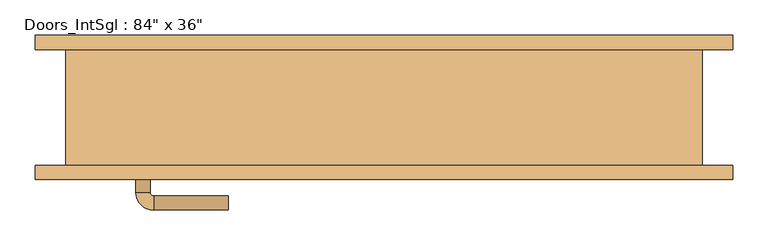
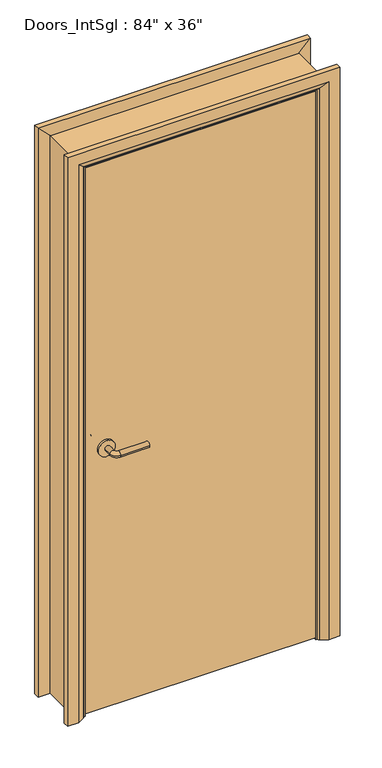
"""IFC4 building model written with IfcOpenShell, lengths in millimetres: door geometry."""

from ifc_helpers import new_model, si_unit, point, frame, frame_2d, origin, place, context, project, spatial, polyline, circle_curve, ellipse_curve, trimmed, segment, composite_curve, outline, extrude, faceted_brep, source, transform, mapped, element, save
from ifc_brep_helpers import plane_surface, cylinder_surface, revolved_surface, advanced_brep


def door_2f42d836(model_context):
    return source(origin(), model_context, "Body", "SolidModel", [
        advanced_brep(
        [(-350.2, -36.0, 1000.0), (-330.2, -36.0, 1000.0), (-350.2, -6.0, 1000.0), (-330.2, -6.0, 1000.0), (-325.2, -1.0, 1000.0), (-325.2, 19.0, 1000.0), (-220.2, 19.0, 1000.0), (-220.2, -1.0, 1000.0)],
        [
            (0, 1, circle_curve(frame((-340.2, -36.0, 1000.0), z_axis=(0.0, -1.0, 0.0), x_axis=(1.0, 0.0, 0.0)), 10.0)),
            (1, 0, circle_curve(frame((-340.2, -36.0, 1000.0), z_axis=(0.0, -1.0, 0.0), x_axis=(1.0, 0.0, 0.0)), 10.0)),
            (0, 2),
            (2, 3, circle_curve(frame((-340.2, -6.0, 1000.0), z_axis=(0.0, -1.0, 0.0), x_axis=(1.0, 0.0, 0.0)), 10.0)),
            (3, 1),
            (3, 2, circle_curve(frame((-340.2, -6.0, 1000.0), z_axis=(0.0, -1.0, 0.0), x_axis=(1.0, 0.0, 0.0)), 10.0)),
            (4, 3, circle_curve(frame((-325.2, -6.0, 1000.0), z_axis=(0.0, 0.0, 1.0), x_axis=(-1.0, 0.0, 0.0)), 5.0)),
            (2, 5, circle_curve(frame((-325.2, -6.0, 1000.0), z_axis=(0.0, 0.0, -1.0), x_axis=(-1.0, 0.0, 0.0)), 25.0)),
            (5, 4, circle_curve(frame((-325.2, 9.0, 1000.0), z_axis=(-1.0, 0.0, 0.0), x_axis=(0.0, -1.0, 0.0)), 10.0)),
            (4, 5, circle_curve(frame((-325.2, 9.0, 1000.0), z_axis=(-1.0, 0.0, 0.0), x_axis=(0.0, -1.0, 0.0)), 10.0)),
            (6, 7, circle_curve(frame((-220.2, 9.0, 1000.0), z_axis=(1.0, 0.0, 0.0), x_axis=(0.0, -1.0, 0.0)), 10.0)),
            (7, 6, circle_curve(frame((-220.2, 9.0, 1000.0), z_axis=(1.0, 0.0, 0.0), x_axis=(0.0, -1.0, 0.0)), 10.0)),
            (5, 6),
            (7, 4),
        ],
        [
            plane_surface(frame((-340.2, -36.0, 1000.0), z_axis=(0.0, -1.0, 0.0), x_axis=(0.0, 0.0, 1.0))),
            cylinder_surface(frame((-340.2, -36.0, 1000.0), z_axis=(0.0, -1.0, 0.0), x_axis=(1.0, 0.0, 0.0)), 10.0),
            revolved_surface(trimmed(ellipse_curve(frame((-340.2, -6.0, 1000.0), z_axis=(0.0, -1.0, 0.0), x_axis=(1.0, 0.0, 0.0)), 10.0, 10.0), [point((-350.2, -6.0, 1000.0))], [point((-330.2, -6.0, 1000.0))], True, "CARTESIAN"), (-325.2, -6.0, 1000.0), (0.0, 0.0, -1.0)),
            revolved_surface(trimmed(ellipse_curve(frame((-340.2, -6.0, 1000.0), z_axis=(0.0, -1.0, 0.0), x_axis=(1.0, 0.0, 0.0)), 10.0, 10.0), [point((-330.2, -6.0, 1000.0))], [point((-350.2, -6.0, 1000.0))], True, "CARTESIAN"), (-325.2, -6.0, 1000.0), (0.0, 0.0, -1.0)),
            plane_surface(frame((-220.2, 9.0, 1000.0), z_axis=(1.0, 0.0, 0.0), x_axis=(0.0, 0.0, 1.0))),
            cylinder_surface(frame((-325.2, 9.0, 1000.0), z_axis=(-1.0, 0.0, 0.0), x_axis=(0.0, -1.0, 0.0)), 10.0),
        ],
        [
            (0, [[1, 2]]),
            (1, [[-1, 3, 4, 5]]),
            (1, [[-2, -5, 6, -3]]),
            (2, [[7, -4, 8, 9]]),
            (3, [[-8, -6, -7, 10]]),
            (4, [[11, 12]]),
            (5, [[-9, 13, -12, 14]]),
            (5, [[-10, -14, -11, -13]]),
        ],
    ),
        extrude(outline(composite_curve([segment(trimmed(circle_curve(frame_2d((1000.0, -342.7)), 30.0), [point((1000.0, -372.7))], [point((1000.0, -312.7))], False, "CARTESIAN"), True, "CONTINUOUS"), segment(trimmed(circle_curve(frame_2d((1000.0, -342.7)), 30.0), [point((1000.0, -312.7))], [point((1000.0, -372.7))], False, "CARTESIAN"), True, "CONTINUOUS")], self_intersect=False)), frame((0.0, -44.0, 0.0), z_axis=(0.0, 1.0, 0.0), x_axis=(0.0, 0.0, 1.0)), (0.0, 0.0, 1.0), 8.0),
        advanced_brep(
        [(-350.2, -90.0, 1000.0), (-330.2, -90.0, 1000.0), (-330.2, -120.0, 1000.0), (-350.2, -120.0, 1000.0), (-325.2, -125.0, 1000.0), (-325.2, -145.0, 1000.0), (-220.2, -145.0, 1000.0), (-220.2, -125.0, 1000.0)],
        [
            (0, 1, circle_curve(frame((-340.2, -90.0, 1000.0), z_axis=(0.0, 1.0, 0.0), x_axis=(1.0, 0.0, 0.0)), 10.0)),
            (1, 0, circle_curve(frame((-340.2, -90.0, 1000.0), z_axis=(0.0, 1.0, 0.0), x_axis=(1.0, 0.0, 0.0)), 10.0)),
            (1, 2),
            (2, 3, circle_curve(frame((-340.2, -120.0, 1000.0), z_axis=(0.0, 1.0, 0.0), x_axis=(1.0, 0.0, 0.0)), 10.0)),
            (3, 0),
            (3, 2, circle_curve(frame((-340.2, -120.0, 1000.0), z_axis=(0.0, 1.0, 0.0), x_axis=(1.0, 0.0, 0.0)), 10.0)),
            (4, 5, circle_curve(frame((-325.2, -135.0, 1000.0), z_axis=(-1.0, 0.0, 0.0), x_axis=(0.0, 1.0, 0.0)), 10.0)),
            (5, 3, circle_curve(frame((-325.2, -120.0, 1000.0), z_axis=(0.0, 0.0, -1.0), x_axis=(-1.0, 0.0, 0.0)), 25.0)),
            (2, 4, circle_curve(frame((-325.2, -120.0, 1000.0), z_axis=(0.0, 0.0, 1.0), x_axis=(-1.0, 0.0, 0.0)), 5.0)),
            (5, 4, circle_curve(frame((-325.2, -135.0, 1000.0), z_axis=(-1.0, 0.0, 0.0), x_axis=(0.0, 1.0, 0.0)), 10.0)),
            (6, 7, circle_curve(frame((-220.2, -135.0, 1000.0), z_axis=(1.0, 0.0, 0.0), x_axis=(0.0, 1.0, 0.0)), 10.0)),
            (7, 6, circle_curve(frame((-220.2, -135.0, 1000.0), z_axis=(1.0, 0.0, 0.0), x_axis=(0.0, 1.0, 0.0)), 10.0)),
            (4, 7),
            (6, 5),
        ],
        [
            plane_surface(frame((-340.2, -90.0, 1000.0), z_axis=(0.0, 1.0, 0.0), x_axis=(0.0, 0.0, 1.0))),
            cylinder_surface(frame((-340.2, -90.0, 1000.0), z_axis=(0.0, 1.0, 0.0), x_axis=(1.0, 0.0, 0.0)), 10.0),
            revolved_surface(trimmed(ellipse_curve(frame((-340.2, -120.0, 1000.0), z_axis=(0.0, -1.0, 0.0), x_axis=(1.0, 0.0, 0.0)), 10.0, 10.0), [point((-350.2, -120.0, 1000.0))], [point((-330.2, -120.0, 1000.0))], True, "CARTESIAN"), (-325.2, -120.0, 1000.0), (0.0, 0.0, -1.0)),
            revolved_surface(trimmed(ellipse_curve(frame((-340.2, -120.0, 1000.0), z_axis=(0.0, -1.0, 0.0), x_axis=(1.0, 0.0, 0.0)), 10.0, 10.0), [point((-330.2, -120.0, 1000.0))], [point((-350.2, -120.0, 1000.0))], True, "CARTESIAN"), (-325.2, -120.0, 1000.0), (0.0, 0.0, -1.0)),
            plane_surface(frame((-220.2, -135.0, 1000.0), z_axis=(1.0, 0.0, 0.0), x_axis=(0.0, 0.0, 1.0))),
            cylinder_surface(frame((-325.2, -135.0, 1000.0), z_axis=(-1.0, 0.0, 0.0), x_axis=(0.0, 1.0, 0.0)), 10.0),
        ],
        [
            (0, [[1, 2]]),
            (1, [[3, 4, 5, -2]]),
            (1, [[-5, 6, -3, -1]]),
            (2, [[7, 8, -4, 9]]),
            (3, [[10, -9, -6, -8]]),
            (4, [[11, 12]]),
            (5, [[13, -11, 14, -7]]),
            (5, [[-14, -12, -13, -10]]),
        ],
    ),
        extrude(outline(composite_curve([segment(trimmed(circle_curve(frame_2d((1000.0, -342.7)), 30.0), [point((1000.0, -372.7))], [point((1000.0, -312.7))], False, "CARTESIAN"), True, "CONTINUOUS"), segment(trimmed(circle_curve(frame_2d((1000.0, -342.7)), 30.0), [point((1000.0, -312.7))], [point((1000.0, -372.7))], False, "CARTESIAN"), True, "CONTINUOUS")], self_intersect=False)), frame((0.0, -90.0, 0.0), z_axis=(0.0, 1.0, 0.0), x_axis=(0.0, 0.0, 1.0)), (0.0, 0.0, 1.0), 8.0),
        extrude(outline(polyline([(415.2, -44.0), (415.2, -82.0), (-415.2, -82.0), (-415.2, -44.0), (415.2, -44.0)])), frame((0.0, 0.0, 8.0), z_axis=(0.0, 0.0, 1.0), x_axis=(1.0, 0.0, 0.0)), (0.0, 0.0, 1.0), 2083.6),
        advanced_brep(
        [(492.2, -102.0, 0.0), (452.2, -102.0, 0.0), (426.2, -88.0, 0.0), (422.2, -82.0, 0.0), (492.2, -82.0, 0.0), (492.2, -82.0, 2168.6), (492.2, -102.0, 2168.6), (422.2, -82.0, 2098.6), (-422.2, -82.0, 2098.6), (-422.2, -82.0, 0.0), (-492.2, -82.0, 0.0), (-492.2, -82.0, 2168.6), (426.2, -88.0, 2102.6), (452.2, -102.0, 2128.6), (-492.2, -102.0, 2168.6), (-492.2, -102.0, 0.0), (-452.2, -102.0, 0.0), (-452.2, -102.0, 2128.6), (-426.2, -88.0, 0.0), (-426.2, -88.0, 2102.6)],
        [
            (0, 1),
            (1, 2),
            (2, 3, circle_curve(frame((430.2, -81.0, 0.0), z_axis=(0.0, 0.0, -1.0), x_axis=(1.0, 0.0, 0.0)), 8.0622577)),
            (3, 4),
            (4, 0),
            (4, 5),
            (5, 6),
            (6, 0),
            (3, 7),
            (7, 8),
            (8, 9),
            (9, 10),
            (10, 11),
            (11, 5),
            (2, 12),
            (12, 7, ellipse_curve(frame((430.2, -81.0, 2106.6), z_axis=(0.7071067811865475, 0.0, -0.7071067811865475), x_axis=(-0.7071067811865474, 0.0, -0.7071067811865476)), 11.4017543, 8.0622577)),
            (1, 13),
            (13, 12),
            (6, 14),
            (14, 15),
            (15, 16),
            (16, 17),
            (17, 13),
            (10, 15),
            (14, 11),
            (9, 18, circle_curve(frame((-430.2, -81.0, 0.0), z_axis=(0.0, 0.0, -1.0), x_axis=(-1.0, 0.0, 0.0)), 8.0622577)),
            (18, 16),
            (19, 18),
            (8, 19, ellipse_curve(frame((-430.2, -81.0, 2106.6), z_axis=(-0.7071067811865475, 0.0, -0.7071067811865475), x_axis=(-0.7071067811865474, 0.0, 0.7071067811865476)), 11.4017543, 8.0622577)),
            (19, 17),
            (12, 19),
        ],
        [
            plane_surface(frame((422.2, -82.0, 0.0), z_axis=(0.0, 0.0, -1.0), x_axis=(0.0, 1.0, 0.0))),
            plane_surface(frame((492.2, -102.0, 0.0), z_axis=(1.0, 0.0, 0.0), x_axis=(0.0, 0.0, 1.0))),
            plane_surface(frame((492.2, -82.0, 0.0), z_axis=(0.0, 1.0, 0.0), x_axis=(0.0, 0.0, 1.0))),
            cylinder_surface(frame((430.2, -81.0, 0.0), z_axis=(0.0, 0.0, -1.0), x_axis=(1.0, 0.0, 0.0)), 8.0622577),
            plane_surface(frame((426.2, -88.0, 0.0), z_axis=(-0.4740998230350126, -0.880471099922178, 0.0), x_axis=(0.0, 0.0, 1.0))),
            plane_surface(frame((452.2, -102.0, 0.0), z_axis=(0.0, -1.0, 0.0), x_axis=(0.0, 0.0, 1.0))),
            plane_surface(frame((-492.2, -102.0, 2168.6), z_axis=(-1.0, 0.0, 0.0), x_axis=(0.0, 0.0, -1.0))),
            plane_surface(frame((-422.2, -82.0, 0.0), z_axis=(0.0, 0.0, -1.0), x_axis=(0.0, 1.0, 0.0))),
            cylinder_surface(frame((-430.2, -81.0, 2098.6), z_axis=(0.0, 0.0, 1.0), x_axis=(-1.0, 0.0, 0.0)), 8.0622577),
            plane_surface(frame((-426.2, -88.0, 2102.6), z_axis=(0.47409982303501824, -0.8804710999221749, 0.0), x_axis=(0.0, 0.0, -1.0))),
            plane_surface(frame((492.2, -102.0, 2168.6), z_axis=(0.0, 0.0, 1.0), x_axis=(-1.0, 0.0, 0.0))),
            cylinder_surface(frame((422.2, -81.0, 2106.6), z_axis=(1.0, 0.0, 0.0), x_axis=(0.0, 0.0, 1.0)), 8.0622577),
            plane_surface(frame((426.2, -88.0, 2102.6), z_axis=(0.0, -0.8804710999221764, -0.4740998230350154), x_axis=(-1.0, 0.0, 0.0))),
        ],
        [
            (0, [[1, 2, 3, 4, 5]]),
            (1, [[6, 7, 8, -5]]),
            (2, [[9, 10, 11, 12, 13, 14, -6, -4]]),
            (3, [[15, 16, -9, -3]]),
            (4, [[17, 18, -15, -2]]),
            (5, [[-8, 19, 20, 21, 22, 23, -17, -1]]),
            (6, [[-13, 24, -20, 25]]),
            (7, [[-24, -12, 26, 27, -21]]),
            (8, [[28, -26, -11, 29]]),
            (9, [[-22, -27, -28, 30]]),
            (10, [[-14, -25, -19, -7]]),
            (11, [[31, -29, -10, -16]]),
            (12, [[-23, -30, -31, -18]]),
        ],
    ),
        extrude(outline(polyline([(0.0, -398.2), (2074.6, -398.2), (2074.6, 398.2), (0.0, 398.2), (0.0, 417.2), (2093.6, 417.2), (2093.6, -417.2), (0.0, -417.2), (0.0, -398.2)])), frame((0.0, -42.0, 0.0), z_axis=(0.0, 1.0, 0.0), x_axis=(0.0, 0.0, 1.0)), (0.0, 0.0, 1.0), 32.0),
        advanced_brep(
        [(-492.2, 102.0, 0.0), (-452.2, 102.0, 0.0), (-426.2, 88.0, 0.0), (-422.2, 82.0, 0.0), (-492.2, 82.0, 0.0), (-492.2, 82.0, 2168.6), (-492.2, 102.0, 2168.6), (-422.2, 82.0, 2098.6), (-426.2, 88.0, 2102.6), (-452.2, 102.0, 2128.6), (492.2, 102.0, 0.0), (492.2, 82.0, 0.0), (422.2, 82.0, 0.0), (426.2, 88.0, 0.0), (452.2, 102.0, 0.0), (492.2, 102.0, 2168.6), (452.2, 102.0, 2128.6), (426.2, 88.0, 2102.6), (422.2, 82.0, 2098.6), (492.2, 82.0, 2168.6)],
        [
            (0, 1),
            (1, 2),
            (2, 3, circle_curve(frame((-430.2, 81.0, 0.0), z_axis=(0.0, 0.0, -1.0), x_axis=(-1.0, 0.0, 0.0)), 8.0622577)),
            (3, 4),
            (4, 0),
            (4, 5),
            (5, 6),
            (6, 0),
            (3, 7),
            (7, 5),
            (2, 8),
            (8, 7, ellipse_curve(frame((-430.2, 81.0, 2106.6), z_axis=(-0.7071067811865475, 0.0, -0.7071067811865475), x_axis=(0.7071067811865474, 0.0, -0.7071067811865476)), 11.4017543, 8.0622577)),
            (1, 9),
            (9, 8),
            (6, 9),
            (10, 11),
            (11, 12),
            (12, 13, circle_curve(frame((430.2, 81.0, 0.0), z_axis=(0.0, 0.0, -1.0), x_axis=(1.0, 0.0, 0.0)), 8.0622577)),
            (13, 14),
            (14, 10),
            (15, 10),
            (14, 16),
            (16, 15),
            (13, 17),
            (17, 16),
            (12, 18),
            (18, 17, ellipse_curve(frame((430.2, 81.0, 2106.6), z_axis=(0.7071067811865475, 0.0, -0.7071067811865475), x_axis=(0.7071067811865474, 0.0, 0.7071067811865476)), 11.4017543, 8.0622577)),
            (11, 19),
            (19, 18),
            (15, 19),
            (5, 19),
            (15, 6),
            (7, 18),
            (8, 17),
            (9, 16),
        ],
        [
            plane_surface(frame((-422.2, 154.8010989, 0.0), z_axis=(0.0, 0.0, -1.0), x_axis=(1.0, 0.0, 0.0))),
            plane_surface(frame((-492.2, 102.0, 0.0), z_axis=(-1.0, 0.0, 0.0), x_axis=(0.0, 0.0, 1.0))),
            plane_surface(frame((-492.2, 82.0, 0.0), z_axis=(0.0, -1.0, 0.0), x_axis=(0.0, 0.0, 1.0))),
            cylinder_surface(frame((-430.2, 81.0, 0.0), z_axis=(0.0, 0.0, -1.0), x_axis=(-1.0, 0.0, 0.0)), 8.0622577),
            plane_surface(frame((-426.2, 88.0, 0.0), z_axis=(0.4740998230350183, 0.8804710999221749, 0.0), x_axis=(0.0, 0.0, 1.0))),
            plane_surface(frame((-452.2, 102.0, 0.0), z_axis=(0.0, 1.0, 0.0), x_axis=(0.0, 0.0, 1.0))),
            plane_surface(frame((422.2, 154.8010989, 0.0), z_axis=(0.0, 0.0, -1.0), x_axis=(-1.0, 0.0, 0.0))),
            plane_surface(frame((452.2, 102.0, 2128.6), z_axis=(0.0, 1.0, 0.0), x_axis=(0.0, 0.0, -1.0))),
            plane_surface(frame((426.2, 88.0, 2102.6), z_axis=(-0.4740998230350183, 0.8804710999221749, 0.0), x_axis=(0.0, 0.0, -1.0))),
            cylinder_surface(frame((430.2, 81.0, 2098.6), z_axis=(0.0, 0.0, 1.0), x_axis=(1.0, 0.0, 0.0)), 8.0622577),
            plane_surface(frame((492.2, 82.0, 2168.6), z_axis=(0.0, -1.0, 0.0), x_axis=(0.0, 0.0, -1.0))),
            plane_surface(frame((492.2, 102.0, 2168.6), z_axis=(1.0, 0.0, 0.0), x_axis=(0.0, 0.0, -1.0))),
            plane_surface(frame((-492.2, 102.0, 2168.6), z_axis=(0.0, 0.0, 1.0), x_axis=(1.0, 0.0, 0.0))),
            plane_surface(frame((-492.2, 82.0, 2168.6), z_axis=(0.0, -1.0, 0.0), x_axis=(1.0, 0.0, 0.0))),
            cylinder_surface(frame((-422.2, 81.0, 2106.6), z_axis=(-1.0, 0.0, 0.0), x_axis=(0.0, 0.0, 1.0)), 8.0622577),
            plane_surface(frame((-426.2, 88.0, 2102.6), z_axis=(0.0, 0.8804710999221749, -0.4740998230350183), x_axis=(1.0, 0.0, 0.0))),
            plane_surface(frame((-452.2, 102.0, 2128.6), z_axis=(0.0, 1.0, 0.0), x_axis=(1.0, 0.0, 0.0))),
        ],
        [
            (0, [[1, 2, 3, 4, 5]]),
            (1, [[6, 7, 8, -5]]),
            (2, [[9, 10, -6, -4]]),
            (3, [[11, 12, -9, -3]]),
            (4, [[13, 14, -11, -2]]),
            (5, [[-8, 15, -13, -1]]),
            (6, [[16, 17, 18, 19, 20]]),
            (7, [[21, -20, 22, 23]]),
            (8, [[-22, -19, 24, 25]]),
            (9, [[-24, -18, 26, 27]]),
            (10, [[-26, -17, 28, 29]]),
            (11, [[-28, -16, -21, 30]]),
            (12, [[31, -30, 32, -7]]),
            (13, [[33, -29, -31, -10]]),
            (14, [[34, -27, -33, -12]]),
            (15, [[35, -25, -34, -14]]),
            (16, [[-32, -23, -35, -15]]),
        ],
    ),
        faceted_brep([(-417.2, -82.0, 0.0), (-449.2, -82.0, 0.0), (-449.2, 82.0, 0.0), (-417.2, 82.0, 0.0), (-417.2, 82.0, 2093.6), (-417.2, -82.0, 2093.6), (-449.2, 82.0, 2125.6), (-449.2, -82.0, 2125.6), (417.2, -82.0, 0.0), (417.2, 82.0, 0.0), (449.2, 82.0, 0.0), (449.2, -82.0, 0.0), (417.2, -82.0, 2093.6), (449.2, -82.0, 2125.6), (449.2, 82.0, 2125.6), (417.2, 82.0, 2093.6)], [[[0, 1, 2, 3]], [[3, 4, 5, 0]], [[2, 6, 4, 3]], [[1, 7, 6, 2]], [[0, 5, 7, 1]], [[8, 9, 10, 11]], [[12, 8, 11, 13]], [[13, 11, 10, 14]], [[14, 10, 9, 15]], [[15, 9, 8, 12]], [[4, 15, 12, 5]], [[6, 14, 15, 4]], [[7, 13, 14, 6]], [[5, 12, 13, 7]]]),
    ])


if __name__ == "__main__":
    model = new_model("IFC4")
    model_context = context("Model", 3, world=origin())
    ifc_project = project(units=[si_unit("LENGTHUNIT", "METRE", prefix="MILLI")], contexts=[model_context])
    site = spatial("IfcSite", under=ifc_project)
    building = spatial("IfcBuilding", under=site)
    placement = place(None, origin())
    door_shape = door_2f42d836(model_context)
    element("IfcDoor", 1, ObjectType="Doors_IntSgl : 84\" x 36\"", at=placement, inside=building, context=model_context, shape_type="MappedRepresentation", body=[
        mapped(door_shape, transform((0.0, 0.0, 0.0), x_axis=(1.0, 0.0, 0.0), y_axis=(0.0, 1.0, 0.0), z_axis=(0.0, 0.0, 1.0))),
    ])
    save(model, "model.ifc")
